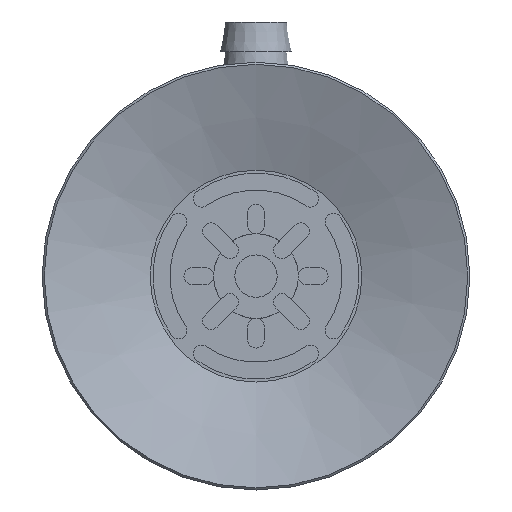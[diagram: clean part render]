
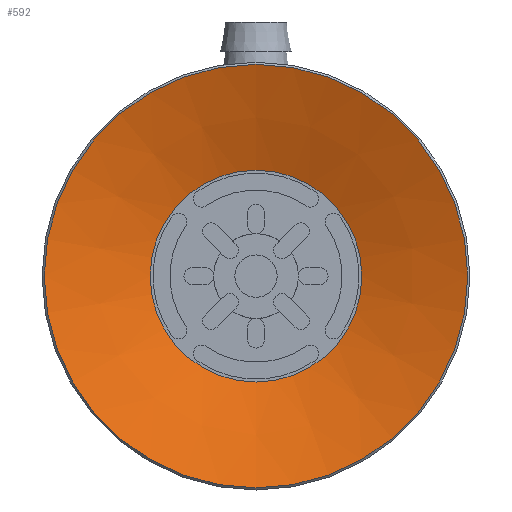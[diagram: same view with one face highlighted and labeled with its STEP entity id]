
A CAD part, front view. The second image highlights one B-rep face of the part: STEP entity #592.
In plain terms, the highlighted conical face has half-angle 70.201 degrees and reference radius 7.5 mm.
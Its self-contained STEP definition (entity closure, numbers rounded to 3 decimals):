
#592=ADVANCED_FACE('',(#977,#978),#979,.F.);
#977=FACE_BOUND('',#1431,.T.);
#978=FACE_OUTER_BOUND('',#1432,.T.);
#979=CONICAL_SURFACE('',#1433,7.5,1.225);
#1431=EDGE_LOOP('',(#2539));
#1432=EDGE_LOOP('',(#2540));
#1433=AXIS2_PLACEMENT_3D('',#2541,#2542,#2543);
#2539=ORIENTED_EDGE('',*,*,#3279,.F.);
#2540=ORIENTED_EDGE('',*,*,#3280,.T.);
#2541=CARTESIAN_POINT('',(0.0,0.0,2.7));
#2542=DIRECTION('',(0.0,0.,-1.0));
#2543=DIRECTION('',(0.0,1.0,0.));
#3279=EDGE_CURVE('',#3928,#3928,#3929,.T.);
#3280=EDGE_CURVE('',#3930,#3930,#3931,.T.);
#3928=VERTEX_POINT('',#5143);
#3929=CIRCLE('',#5144,7.5);
#3930=VERTEX_POINT('',#5145);
#3931=CIRCLE('',#5146,15.0);
#5143=CARTESIAN_POINT('',(0.0,7.5,2.7));
#5144=AXIS2_PLACEMENT_3D('',#5855,#5856,#5857);
#5145=CARTESIAN_POINT('',(0.0,15.0,0.));
#5146=AXIS2_PLACEMENT_3D('',#5858,#5859,#5860);
#5855=CARTESIAN_POINT('',(0.0,0.0,2.7));
#5856=DIRECTION('',(0.0,0.,-1.0));
#5857=DIRECTION('',(0.0,1.0,0.));
#5858=CARTESIAN_POINT('',(0.0,0.0,0.0));
#5859=DIRECTION('',(0.0,0.,-1.0));
#5860=DIRECTION('',(0.0,1.0,0.));
